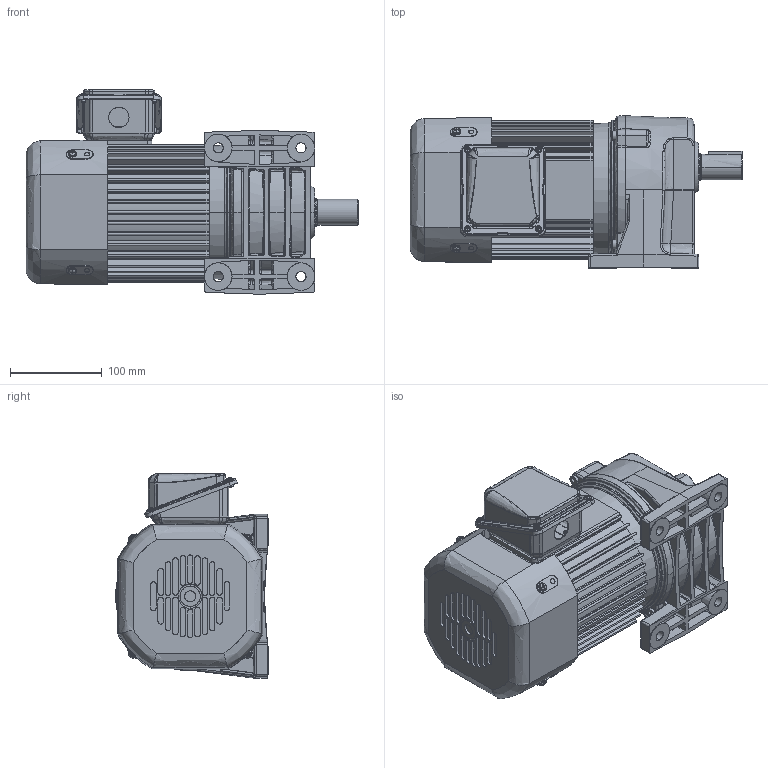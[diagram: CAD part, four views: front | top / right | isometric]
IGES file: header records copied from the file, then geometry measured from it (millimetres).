
Start section: SolidWorks IGES file using analytic representation for surfaces
Global section: file name: \\100.100.100.8\1_共有作業フォルダ\1-5_３Ｄデータ\solidworks\personal-folder\H.Nagayama\SGP1外形075~370\P1(3D)_075~370\igs\TML2-07-(5~25).IGS; native system: SolidWorks 2018; preprocessor: SolidWorks 2018; author: sigma-giken; date: 200806.161433; units: millimetre
Bounding box: 361 x 166 x 222.3 mm (x, y, z)
Surface area: 518115.8 mm2 (no closed solid volume)
Topology: 0 solids, 0 shells, 1730 faces, 20624 edges, 20583 vertices
Faces by surface type: bspline 893, revolution 837
